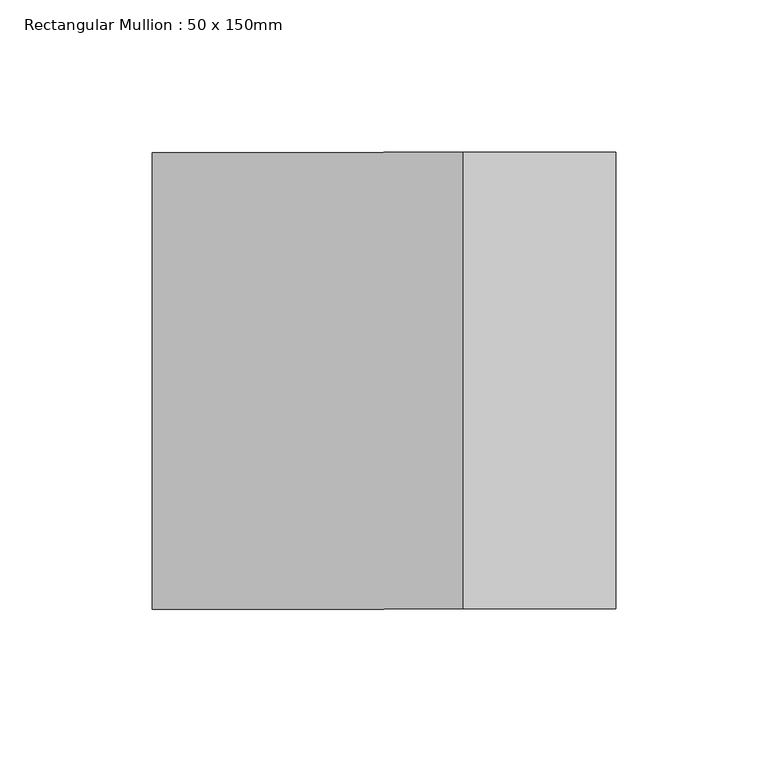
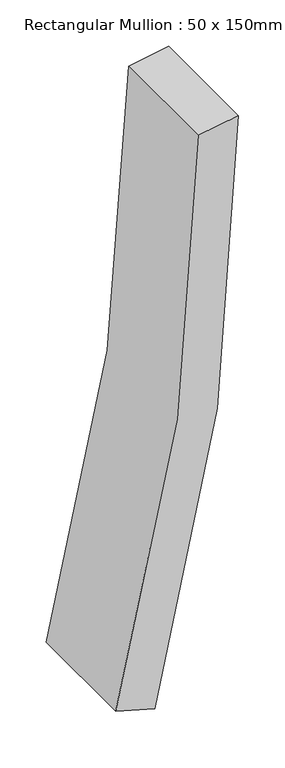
"""IFC4 building model written with IfcOpenShell, lengths in millimetres: member geometry, Rectangular Mullion : 50 x 150mm."""

from ifc_helpers import new_model, si_unit, point, frame, frame_2d, origin, place, context, project, spatial, polyline, circle_curve, trimmed, segment, composite_curve, outline, extrude, source, transform, mapped, element, save


def rectangular_mullion_50_x_150mm_c8c9eab7(model_context):
    return source(origin(), model_context, "Body", "SweptSolid", [
        extrude(outline(composite_curve([segment(trimmed(circle_curve(frame_2d((0.0, -2710.0942185)), 2710.0942185), [point((-744.0822606, -104.1486583))], [point((0.0, 0.0))], False, "CARTESIAN"), True, "CONTINUOUS"), segment(polyline([(0.0, 0.0), (-8.3742293, -50.0131815)]), True, "CONTINUOUS"), segment(trimmed(circle_curve(frame_2d((0.0, -2710.0942185)), 2660.0942185), [point((-8.3742293, -50.0131815))], [point((-730.3542828, -152.2271632))], True, "CARTESIAN"), True, "CONTINUOUS"), segment(polyline([(-730.3542828, -152.2271632), (-744.0822606, -104.1486583)]), True, "CONTINUOUS")], self_intersect=False)), frame((0.0, -75.0, 0.0), z_axis=(0.0, 1.0, 0.0), x_axis=(0.0, 0.0, 1.0)), (0.0, 0.0, 1.0), 150.0),
    ])


if __name__ == "__main__":
    model = new_model("IFC4")
    model_context = context("Model", 3, world=origin())
    ifc_project = project(units=[si_unit("LENGTHUNIT", "METRE", prefix="MILLI")], contexts=[model_context])
    site = spatial("IfcSite", under=ifc_project)
    building = spatial("IfcBuilding", under=site)
    placement = place(None, origin())
    rectangular_mullion_50_x_150mm_shape = rectangular_mullion_50_x_150mm_c8c9eab7(model_context)
    element("IfcMember", 1, ObjectType="Rectangular Mullion : 50 x 150mm", at=placement, inside=building, context=model_context, shape_type="MappedRepresentation", body=[
        mapped(rectangular_mullion_50_x_150mm_shape, transform((0.0, 0.0, 0.0), x_axis=(1.0, 0.0, 0.0), y_axis=(0.0, 1.0, 0.0), z_axis=(0.0, 0.0, 1.0))),
    ])
    save(model, "model.ifc")
